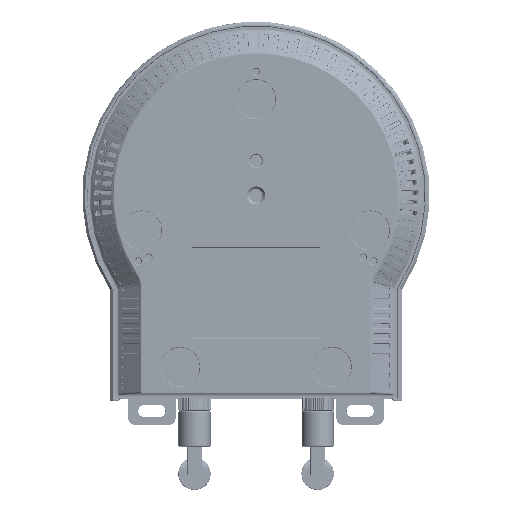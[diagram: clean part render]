
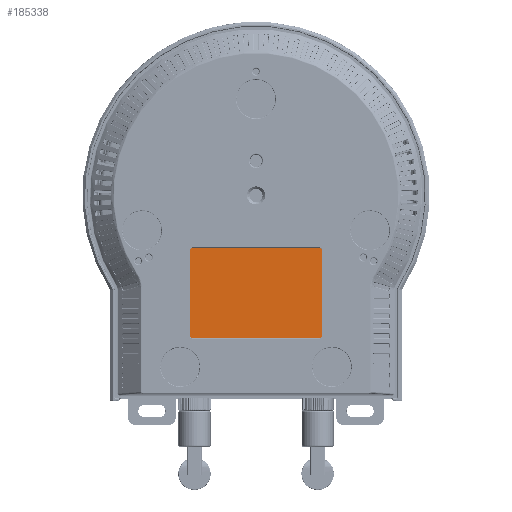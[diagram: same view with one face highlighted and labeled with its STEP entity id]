
A CAD part, front view. The second image highlights one B-rep face of the part: STEP entity #185338.
In plain terms, the highlighted planar face has unit normal (0, -1, 0).
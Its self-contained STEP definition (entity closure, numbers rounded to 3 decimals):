
#13149=PLANE('',#200914);
#22414=FACE_OUTER_BOUND('',#33206,.T.);
#33206=EDGE_LOOP('',(#167821,#167822,#167823,#167824,#167825,#167826,#167827,
#167828));
#41895=CIRCLE('',#200915,1.);
#41896=CIRCLE('',#200916,1.);
#41897=CIRCLE('',#200917,1.);
#41898=CIRCLE('',#200918,1.);
#60690=LINE('',#532035,#72396);
#60693=LINE('',#532041,#72399);
#60694=LINE('',#532045,#72400);
#60695=LINE('',#532050,#72401);
#72396=VECTOR('',#242722,51.);
#72399=VECTOR('',#242727,51.);
#72400=VECTOR('',#242730,34.5);
#72401=VECTOR('',#242735,34.5);
#89034=VERTEX_POINT('',#532033);
#89035=VERTEX_POINT('',#532034);
#89036=VERTEX_POINT('',#532039);
#89037=VERTEX_POINT('',#532040);
#89038=VERTEX_POINT('',#532042);
#89039=VERTEX_POINT('',#532044);
#89040=VERTEX_POINT('',#532047);
#89041=VERTEX_POINT('',#532049);
#115685=EDGE_CURVE('',#89034,#89035,#60690,.T.);
#115688=EDGE_CURVE('',#89036,#89037,#60693,.T.);
#115689=EDGE_CURVE('',#89037,#89038,#41895,.T.);
#115690=EDGE_CURVE('',#89038,#89039,#60694,.T.);
#115691=EDGE_CURVE('',#89039,#89034,#41896,.T.);
#115692=EDGE_CURVE('',#89040,#89035,#41897,.T.);
#115693=EDGE_CURVE('',#89041,#89040,#60695,.T.);
#115694=EDGE_CURVE('',#89036,#89041,#41898,.T.);
#167821=ORIENTED_EDGE('',*,*,#115688,.T.);
#167822=ORIENTED_EDGE('',*,*,#115689,.T.);
#167823=ORIENTED_EDGE('',*,*,#115690,.T.);
#167824=ORIENTED_EDGE('',*,*,#115691,.T.);
#167825=ORIENTED_EDGE('',*,*,#115685,.T.);
#167826=ORIENTED_EDGE('',*,*,#115692,.F.);
#167827=ORIENTED_EDGE('',*,*,#115693,.F.);
#167828=ORIENTED_EDGE('',*,*,#115694,.F.);
#185338=ADVANCED_FACE('',(#22414),#13149,.T.);
#200914=AXIS2_PLACEMENT_3D('',#532038,#242725,#242726);
#200915=AXIS2_PLACEMENT_3D('',#532043,#242728,#242729);
#200916=AXIS2_PLACEMENT_3D('',#532046,#242731,#242732);
#200917=AXIS2_PLACEMENT_3D('',#532048,#242733,#242734);
#200918=AXIS2_PLACEMENT_3D('',#532051,#242736,#242737);
#242722=DIRECTION('',(1.,0.,0.));
#242725=DIRECTION('center_axis',(0.,-1.,0.));
#242726=DIRECTION('ref_axis',(1.,0.,0.));
#242727=DIRECTION('',(-1.,0.,0.));
#242728=DIRECTION('center_axis',(0.,-1.,0.));
#242729=DIRECTION('ref_axis',(0.,0.,1.));
#242730=DIRECTION('',(0.,0.,-1.));
#242731=DIRECTION('center_axis',(0.,-1.,0.));
#242732=DIRECTION('ref_axis',(-1.,0.,0.));
#242733=DIRECTION('center_axis',(0.,1.,0.));
#242734=DIRECTION('ref_axis',(1.,0.,0.));
#242735=DIRECTION('',(0.,0.,-1.));
#242736=DIRECTION('center_axis',(0.,1.,0.));
#242737=DIRECTION('ref_axis',(0.,0.,1.));
#532033=CARTESIAN_POINT('',(-25.5,-164.5,-56.5));
#532034=CARTESIAN_POINT('',(25.5,-164.5,-56.5));
#532035=CARTESIAN_POINT('',(-25.5,-164.5,-56.5));
#532038=CARTESIAN_POINT('Origin',(0.,-164.5,0.));
#532039=CARTESIAN_POINT('',(25.5,-164.5,-20.));
#532040=CARTESIAN_POINT('',(-25.5,-164.5,-20.));
#532041=CARTESIAN_POINT('',(25.5,-164.5,-20.));
#532042=CARTESIAN_POINT('',(-26.5,-164.5,-21.));
#532043=CARTESIAN_POINT('Origin',(-25.5,-164.5,-21.));
#532044=CARTESIAN_POINT('',(-26.5,-164.5,-55.5));
#532045=CARTESIAN_POINT('',(-26.5,-164.5,-21.));
#532046=CARTESIAN_POINT('Origin',(-25.5,-164.5,-55.5));
#532047=CARTESIAN_POINT('',(26.5,-164.5,-55.5));
#532048=CARTESIAN_POINT('Origin',(25.5,-164.5,-55.5));
#532049=CARTESIAN_POINT('',(26.5,-164.5,-21.));
#532050=CARTESIAN_POINT('',(26.5,-164.5,-21.));
#532051=CARTESIAN_POINT('Origin',(25.5,-164.5,-21.));
